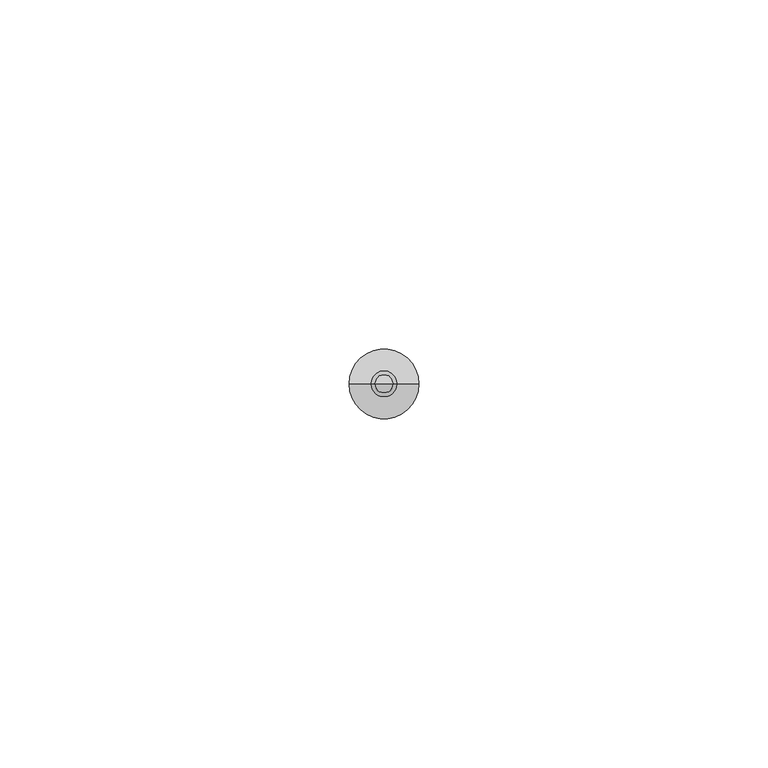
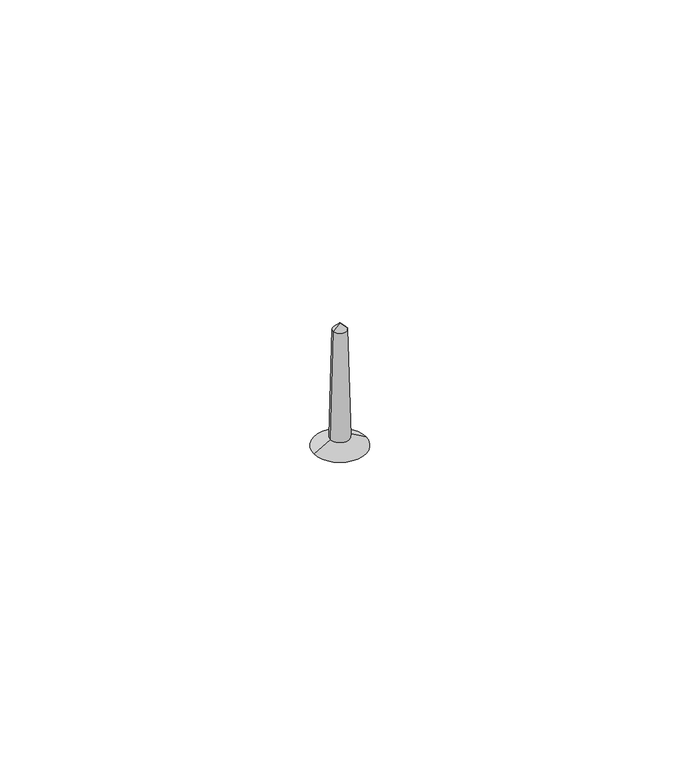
"""IFC4 building model written with IfcOpenShell, lengths in millimetres: proxy geometry, Винт самонарезающийся : Винт самонарезающийся."""

from ifc_helpers import new_model, si_unit, frame, origin, origin_with_axes, place, context, project, spatial, polyline, circle_curve, source, transform, mapped, element, save
from ifc_brep_helpers import plane_surface, revolved_surface, advanced_brep


def generic_models_9a0dee0d(model_context):
    return source(origin(), model_context, "Body", "AdvancedBrep", [
        advanced_brep(
        [(-1.865608, 0.0, 1.809642), (1.865608, 0.0, 1.809642), (5.0, 0.0, 0.0), (-5.0, 0.0, 0.0), (-1.3053271, 0.0, 23.6594235), (1.3053271, 0.0, 23.6594235), (0.0, 0.0, 25.0), (0.0, 0.0, 0.0)],
        [
            (0, 1, circle_curve(frame((0.0, 0.0, 1.809642), z_axis=(0.0, 0.0, -1.0), x_axis=(1.0, 0.0, 0.0)), 1.865608)),
            (1, 2),
            (2, 3, circle_curve(origin_with_axes(), 5.0)),
            (3, 0),
            (1, 0, circle_curve(frame((0.0, 0.0, 1.809642), z_axis=(0.0, 0.0, -1.0), x_axis=(1.0, 0.0, 0.0)), 1.865608)),
            (3, 2, circle_curve(origin_with_axes(), 5.0)),
            (4, 5, circle_curve(frame((0.0, 0.0, 23.6594235), z_axis=(0.0, 0.0, -1.0), x_axis=(1.0, 0.0, 0.0)), 1.3053271)),
            (5, 1),
            (0, 4),
            (5, 4, circle_curve(frame((0.0, 0.0, 23.6594235), z_axis=(0.0, 0.0, -1.0), x_axis=(1.0, 0.0, 0.0)), 1.3053271)),
            (6, 5),
            (4, 6),
            (2, 7),
            (7, 3),
        ],
        [
            revolved_surface(polyline([(5.0, 0.0, 0.0), (1.865608, 0.0, 1.809642)]), (0.0, 0.0, 1000.0), (0.0, 0.0, 1.0)),
            revolved_surface(polyline([(1.865608, 0.0, 1.809642), (1.3053271, 0.0, 23.6594235)]), (0.0, 0.0, 1000.0), (0.0, 0.0, 1.0)),
            revolved_surface(polyline([(1.3053271, 0.0, 23.6594235), (0.0, 0.0, 25.0)]), (0.0, 0.0, 1000.0), (0.0, 0.0, 1.0)),
            plane_surface(frame((0.0, 0.0, 0.0), z_axis=(0.0, 0.0, -1.0), x_axis=(1.0, 0.0, 0.0))),
        ],
        [
            (0, [[1, 2, 3, 4]]),
            (0, [[5, -4, 6, -2]]),
            (1, [[7, 8, -1, 9]]),
            (1, [[10, -9, -5, -8]]),
            (2, [[11, -7, 12]]),
            (2, [[-12, -10, -11]]),
            (3, [[-3, 13, 14]]),
            (3, [[-6, -14, -13]]),
        ],
    ),
    ])


if __name__ == "__main__":
    model = new_model("IFC4")
    model_context = context("Model", 3, world=origin())
    ifc_project = project(units=[si_unit("LENGTHUNIT", "METRE", prefix="MILLI")], contexts=[model_context])
    site = spatial("IfcSite", under=ifc_project)
    building = spatial("IfcBuilding", under=site)
    placement = place(None, origin())
    generic_models_shape = generic_models_9a0dee0d(model_context)
    element("IfcBuildingElementProxy", 1, Name="Винт самонарезающийся : Винт самонарезающийся", ObjectType="Винт самонарезающийся : Винт самонарезающийся", at=placement, inside=building, context=model_context, shape_type="MappedRepresentation", body=[
        mapped(generic_models_shape, transform((0.0, 0.0, 0.0), x_axis=(1.0, 0.0, 0.0), y_axis=(0.0, 1.0, 0.0), z_axis=(0.0, 0.0, 1.0))),
    ])
    save(model, "model.ifc")
